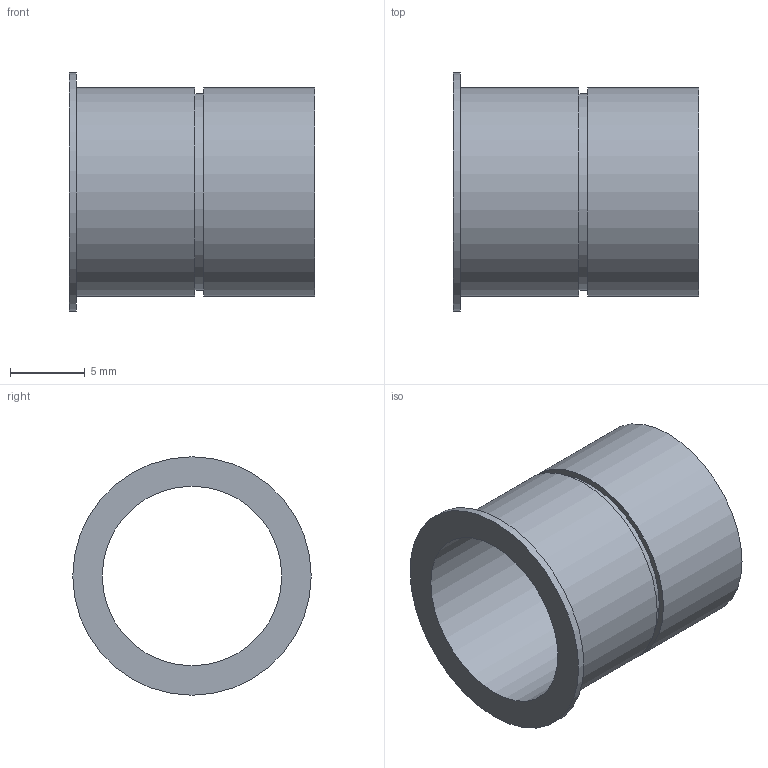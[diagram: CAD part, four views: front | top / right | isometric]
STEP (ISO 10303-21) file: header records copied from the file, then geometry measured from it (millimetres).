
FILE_DESCRIPTION(('Open CASCADE Model'),'2;1');
FILE_NAME('U_R12_removable_original_bearing_seal_land', '2026-09-28T18:17:09',('Author'),('Open CASCADE'), 'Open CASCADE STEP processor 7.9','build123d','Unknown');
FILE_SCHEMA(('AUTOMOTIVE_DESIGN { 1 0 10303 214 1 1 1 1 }'));
Length unit declared in the file: millimetre
Products named in the file (1): U_R12_removable_original_bearing_seal_land
Bounding box: 16.5 x 16 x 16 mm (x, y, z)
Volume: 671.6 mm3; surface area: 1560.2 mm2
Topology: 1 solids, 1 shells, 10 faces, 15 edges, 10 vertices
Faces by surface type: plane 5, cylinder 5
Full cylindrical faces by diameter (mm): 12.05 x1, 13.2 x1, 14 x2, 16 x1
Entity records: 449 total; most frequent: DIRECTION 77, CARTESIAN_POINT 66, ORIENTED_EDGE 30, PCURVE 30, DEFINITIONAL_REPRESENTATION 30, LINE 25, VECTOR 25, AXIS2_PLACEMENT_3D 21
